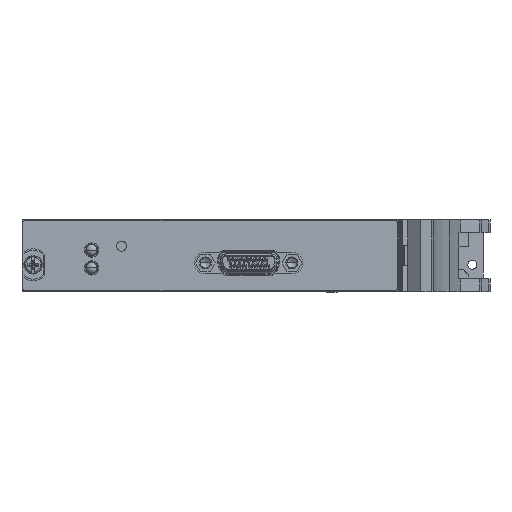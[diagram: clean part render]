
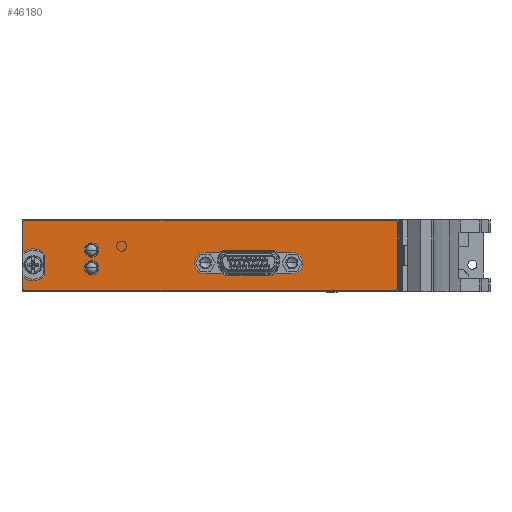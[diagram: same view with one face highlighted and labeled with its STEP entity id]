
A CAD part, left-side view. The second image highlights one B-rep face of the part: STEP entity #46180.
In plain terms, the highlighted planar face has unit normal (-1, 0, 0).
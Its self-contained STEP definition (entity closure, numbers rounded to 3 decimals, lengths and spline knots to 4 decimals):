
#2918=CARTESIAN_POINT('',(-0.215,0.5347,0.665));
#2919=DIRECTION('',(-1.,0.,0.));
#2920=DIRECTION('',(0.,0.,1.));
#2921=AXIS2_PLACEMENT_3D('',#2918,#2919,#2920);
#2923=DIRECTION('',(0.,1.,0.));
#2924=VECTOR('',#2923,4.07);
#2925=CARTESIAN_POINT('',(-0.215,-3.5354,0.685));
#2926=LINE('',#2925,#2924);
#2927=CARTESIAN_POINT('',(-0.215,-3.5354,0.665));
#2928=DIRECTION('',(-1.,0.,0.));
#2929=DIRECTION('',(0.,-1.,0.));
#2930=AXIS2_PLACEMENT_3D('',#2927,#2928,#2929);
#2932=DIRECTION('',(0.,0.,1.));
#2933=VECTOR('',#2932,0.728);
#2934=CARTESIAN_POINT('',(-0.215,-3.5554,-0.063));
#2935=LINE('',#2934,#2933);
#2936=CARTESIAN_POINT('',(-0.215,-3.5354,-0.063));
#2937=DIRECTION('',(-1.,0.,0.));
#2938=DIRECTION('',(0.,0.,-1.));
#2939=AXIS2_PLACEMENT_3D('',#2936,#2937,#2938);
#2941=DIRECTION('',(0.,-1.,0.));
#2942=VECTOR('',#2941,4.07);
#2943=CARTESIAN_POINT('',(-0.215,0.5347,-0.083));
#2944=LINE('',#2943,#2942);
#2945=CARTESIAN_POINT('',(-0.215,0.5347,-0.063));
#2946=DIRECTION('',(-1.,0.,0.));
#2947=DIRECTION('',(0.,1.,0.));
#2948=AXIS2_PLACEMENT_3D('',#2945,#2946,#2947);
#2950=DIRECTION('',(0.,0.,-1.));
#2951=VECTOR('',#2950,0.1295);
#2952=CARTESIAN_POINT('',(-0.215,0.5547,0.0665));
#2953=LINE('',#2952,#2951);
#2954=CARTESIAN_POINT('',(-0.215,0.4427,0.201));
#2955=DIRECTION('',(1.,0.,0.));
#2956=DIRECTION('',(0.,-0.737,-0.676));
#2957=AXIS2_PLACEMENT_3D('',#2954,#2955,#2956);
#2959=DIRECTION('',(0.,0.,-1.));
#2960=VECTOR('',#2959,0.2365);
#2961=CARTESIAN_POINT('',(-0.215,0.3137,0.3193));
#2962=LINE('',#2961,#2960);
#2963=CARTESIAN_POINT('',(-0.215,0.4427,0.201));
#2964=DIRECTION('',(1.,0.,0.));
#2965=DIRECTION('',(0.,0.64,0.768));
#2966=AXIS2_PLACEMENT_3D('',#2963,#2964,#2965);
#2968=DIRECTION('',(0.,0.,-1.));
#2969=VECTOR('',#2968,0.3295);
#2970=CARTESIAN_POINT('',(-0.215,0.5547,0.665));
#2971=LINE('',#2970,#2969);
#2972=CARTESIAN_POINT('',(-0.215,-0.1994,0.362));
#2973=DIRECTION('',(-1.,0.,0.));
#2974=DIRECTION('',(0.,0.,1.));
#2975=AXIS2_PLACEMENT_3D('',#2972,#2973,#2974);
#2977=CARTESIAN_POINT('',(-0.215,-0.1994,0.362));
#2978=DIRECTION('',(-1.,0.,0.));
#2979=DIRECTION('',(0.,0.,-1.));
#2980=AXIS2_PLACEMENT_3D('',#2977,#2978,#2979);
#2982=CARTESIAN_POINT('',(-0.215,-0.1994,0.167));
#2983=DIRECTION('',(-1.,0.,0.));
#2984=DIRECTION('',(0.,0.,1.));
#2985=AXIS2_PLACEMENT_3D('',#2982,#2983,#2984);
#2987=CARTESIAN_POINT('',(-0.215,-0.1994,0.167));
#2988=DIRECTION('',(-1.,0.,0.));
#2989=DIRECTION('',(0.,0.,-1.));
#2990=AXIS2_PLACEMENT_3D('',#2987,#2988,#2989);
#2992=CARTESIAN_POINT('',(-0.215,-1.6944,0.198));
#2993=DIRECTION('',(-1.,0.,0.));
#2994=DIRECTION('',(0.,0.548,-0.836));
#2995=AXIS2_PLACEMENT_3D('',#2992,#2993,#2994);
#2997=DIRECTION('',(0.,-1.,0.));
#2998=VECTOR('',#2997,0.458);
#2999=CARTESIAN_POINT('',(-0.215,-1.6944,0.082));
#3000=LINE('',#2999,#2998);
#3001=CARTESIAN_POINT('',(-0.215,-2.1524,0.198));
#3002=DIRECTION('',(-1.,0.,0.));
#3003=DIRECTION('',(0.,0.,-1.));
#3004=AXIS2_PLACEMENT_3D('',#3001,#3002,#3003);
#3006=DIRECTION('',(0.,-1.,0.));
#3007=VECTOR('',#3006,0.1824);
#3008=CARTESIAN_POINT('',(-0.215,-2.216,0.101));
#3009=LINE('',#3008,#3007);
#3010=DIRECTION('',(0.,1.,0.));
#3011=VECTOR('',#3010,0.1542);
#3012=CARTESIAN_POINT('',(-0.215,-2.3984,0.339));
#3013=LINE('',#3012,#3011);
#3014=CARTESIAN_POINT('',(-0.215,-2.1894,0.274));
#3015=DIRECTION('',(-1.,0.,0.));
#3016=DIRECTION('',(0.,-0.644,0.765));
#3017=AXIS2_PLACEMENT_3D('',#3014,#3015,#3016);
#3019=DIRECTION('',(0.,1.,0.));
#3020=VECTOR('',#3019,0.532);
#3021=CARTESIAN_POINT('',(-0.215,-2.1894,0.359));
#3022=LINE('',#3021,#3020);
#3023=CARTESIAN_POINT('',(-0.215,-1.6574,0.274));
#3024=DIRECTION('',(-1.,0.,0.));
#3025=DIRECTION('',(0.,0.,1.));
#3026=AXIS2_PLACEMENT_3D('',#3023,#3024,#3025);
#3028=DIRECTION('',(0.,1.,0.));
#3029=VECTOR('',#3028,0.1542);
#3030=CARTESIAN_POINT('',(-0.215,-1.6026,0.339));
#3031=LINE('',#3030,#3029);
#3032=DIRECTION('',(0.,-1.,0.));
#3033=VECTOR('',#3032,0.1824);
#3034=CARTESIAN_POINT('',(-0.215,-1.4484,0.101));
#3035=LINE('',#3034,#3033);
#3272=CARTESIAN_POINT('',(-0.215,-1.4484,0.22));
#3273=DIRECTION('',(1.,0.,0.));
#3274=DIRECTION('',(0.,0.,-1.));
#3275=AXIS2_PLACEMENT_3D('',#3272,#3273,#3274);
#3301=CARTESIAN_POINT('',(-0.215,-2.3984,0.22));
#3302=DIRECTION('',(1.,0.,0.));
#3303=DIRECTION('',(0.,0.,1.));
#3304=AXIS2_PLACEMENT_3D('',#3301,#3302,#3303);
#42642=CARTESIAN_POINT('',(-0.215,0.5347,0.685));
#42643=CARTESIAN_POINT('',(-0.215,0.5547,0.665));
#42644=VERTEX_POINT('',#42642);
#42645=VERTEX_POINT('',#42643);
#42646=CARTESIAN_POINT('',(-0.215,0.5547,0.3355));
#42647=VERTEX_POINT('',#42646);
#42648=CARTESIAN_POINT('',(-0.215,0.3137,0.3193));
#42649=VERTEX_POINT('',#42648);
#42650=CARTESIAN_POINT('',(-0.215,0.3137,0.0827));
#42651=VERTEX_POINT('',#42650);
#42652=CARTESIAN_POINT('',(-0.215,0.5547,0.0665));
#42653=VERTEX_POINT('',#42652);
#42654=CARTESIAN_POINT('',(-0.215,0.5547,-0.063));
#42655=VERTEX_POINT('',#42654);
#42656=CARTESIAN_POINT('',(-0.215,0.5347,-0.083));
#42657=VERTEX_POINT('',#42656);
#42658=CARTESIAN_POINT('',(-0.215,-3.5354,-0.083));
#42659=VERTEX_POINT('',#42658);
#42660=CARTESIAN_POINT('',(-0.215,-3.5554,-0.063));
#42661=VERTEX_POINT('',#42660);
#42662=CARTESIAN_POINT('',(-0.215,-3.5554,0.665));
#42663=VERTEX_POINT('',#42662);
#42664=CARTESIAN_POINT('',(-0.215,-3.5354,0.685));
#42665=VERTEX_POINT('',#42664);
#42666=CARTESIAN_POINT('',(-0.215,-0.1994,0.4405));
#42667=CARTESIAN_POINT('',(-0.215,-0.1994,0.2835));
#42668=VERTEX_POINT('',#42666);
#42669=VERTEX_POINT('',#42667);
#42670=CARTESIAN_POINT('',(-0.215,-0.1994,0.2455));
#42671=CARTESIAN_POINT('',(-0.215,-0.1994,0.0885));
#42672=VERTEX_POINT('',#42670);
#42673=VERTEX_POINT('',#42671);
#42674=CARTESIAN_POINT('',(-0.215,-1.6307,0.101));
#42675=CARTESIAN_POINT('',(-0.215,-1.6944,0.082));
#42676=VERTEX_POINT('',#42674);
#42677=VERTEX_POINT('',#42675);
#42678=CARTESIAN_POINT('',(-0.215,-2.1524,0.082));
#42679=VERTEX_POINT('',#42678);
#42680=CARTESIAN_POINT('',(-0.215,-2.216,0.101));
#42681=VERTEX_POINT('',#42680);
#42682=CARTESIAN_POINT('',(-0.215,-2.3984,0.101));
#42683=VERTEX_POINT('',#42682);
#42684=CARTESIAN_POINT('',(-0.215,-2.3984,0.339));
#42685=CARTESIAN_POINT('',(-0.215,-2.2441,0.339));
#42686=VERTEX_POINT('',#42684);
#42687=VERTEX_POINT('',#42685);
#42688=CARTESIAN_POINT('',(-0.215,-2.1894,0.359));
#42689=VERTEX_POINT('',#42688);
#42690=CARTESIAN_POINT('',(-0.215,-1.6574,0.359));
#42691=VERTEX_POINT('',#42690);
#42692=CARTESIAN_POINT('',(-0.215,-1.6026,0.339));
#42693=VERTEX_POINT('',#42692);
#42694=CARTESIAN_POINT('',(-0.215,-1.4484,0.101));
#42695=VERTEX_POINT('',#42694);
#42696=CARTESIAN_POINT('',(-0.215,-1.4484,0.339));
#42697=VERTEX_POINT('',#42696);
#46123=CARTESIAN_POINT('',(-0.215,0.4427,0.201));
#46124=DIRECTION('',(-1.,0.,0.));
#46125=DIRECTION('',(0.,0.,1.));
#46126=AXIS2_PLACEMENT_3D('',#46123,#46124,#46125);
#46127=PLANE('',#46126);
#46128=ORIENTED_EDGE('',*,*,#45963,.F.);
#46129=ORIENTED_EDGE('',*,*,#45978,.F.);
#46130=ORIENTED_EDGE('',*,*,#45992,.F.);
#46131=ORIENTED_EDGE('',*,*,#46006,.F.);
#46132=ORIENTED_EDGE('',*,*,#46020,.F.);
#46133=ORIENTED_EDGE('',*,*,#46034,.F.);
#46134=ORIENTED_EDGE('',*,*,#46048,.F.);
#46135=ORIENTED_EDGE('',*,*,#46062,.F.);
#46136=ORIENTED_EDGE('',*,*,#46076,.F.);
#46137=ORIENTED_EDGE('',*,*,#46090,.F.);
#46138=ORIENTED_EDGE('',*,*,#46104,.F.);
#46139=ORIENTED_EDGE('',*,*,#46117,.F.);
#46140=EDGE_LOOP('',(#46128,#46129,#46130,#46131,#46132,#46133,#46134,#46135,
#46136,#46137,#46138,#46139));
#46141=FACE_OUTER_BOUND('',#46140,.F.);
#46143=ORIENTED_EDGE('',*,*,#46142,.T.);
#46145=ORIENTED_EDGE('',*,*,#46144,.T.);
#46146=EDGE_LOOP('',(#46143,#46145));
#46147=FACE_BOUND('',#46146,.F.);
#46149=ORIENTED_EDGE('',*,*,#46148,.T.);
#46151=ORIENTED_EDGE('',*,*,#46150,.T.);
#46152=EDGE_LOOP('',(#46149,#46151));
#46153=FACE_BOUND('',#46152,.F.);
#46155=ORIENTED_EDGE('',*,*,#46154,.T.);
#46157=ORIENTED_EDGE('',*,*,#46156,.T.);
#46159=ORIENTED_EDGE('',*,*,#46158,.T.);
#46161=ORIENTED_EDGE('',*,*,#46160,.T.);
#46163=ORIENTED_EDGE('',*,*,#46162,.F.);
#46165=ORIENTED_EDGE('',*,*,#46164,.T.);
#46167=ORIENTED_EDGE('',*,*,#46166,.T.);
#46169=ORIENTED_EDGE('',*,*,#46168,.T.);
#46171=ORIENTED_EDGE('',*,*,#46170,.T.);
#46173=ORIENTED_EDGE('',*,*,#46172,.T.);
#46175=ORIENTED_EDGE('',*,*,#46174,.F.);
#46177=ORIENTED_EDGE('',*,*,#46176,.T.);
#46178=EDGE_LOOP('',(#46155,#46157,#46159,#46161,#46163,#46165,#46167,#46169,
#46171,#46173,#46175,#46177));
#46179=FACE_BOUND('',#46178,.F.);
#46180=ADVANCED_FACE('',(#46141,#46147,#46153,#46179),#46127,.T.);
#2922=CIRCLE('',#2921,0.02);
#2931=CIRCLE('',#2930,0.02);
#2940=CIRCLE('',#2939,0.02);
#2949=CIRCLE('',#2948,0.02);
#2958=CIRCLE('',#2957,0.175);
#2967=CIRCLE('',#2966,0.175);
#2976=CIRCLE('',#2975,0.0785);
#2981=CIRCLE('',#2980,0.0785);
#2986=CIRCLE('',#2985,0.0785);
#2991=CIRCLE('',#2990,0.0785);
#2996=CIRCLE('',#2995,0.116);
#3005=CIRCLE('',#3004,0.116);
#3018=CIRCLE('',#3017,0.085);
#3027=CIRCLE('',#3026,0.085);
#3276=CIRCLE('',#3275,0.119);
#3305=CIRCLE('',#3304,0.119);
#45963=EDGE_CURVE('',#42644,#42645,#2922,.T.);
#45978=EDGE_CURVE('',#42665,#42644,#2926,.T.);
#45992=EDGE_CURVE('',#42663,#42665,#2931,.T.);
#46006=EDGE_CURVE('',#42661,#42663,#2935,.T.);
#46020=EDGE_CURVE('',#42659,#42661,#2940,.T.);
#46034=EDGE_CURVE('',#42657,#42659,#2944,.T.);
#46048=EDGE_CURVE('',#42655,#42657,#2949,.T.);
#46062=EDGE_CURVE('',#42653,#42655,#2953,.T.);
#46076=EDGE_CURVE('',#42651,#42653,#2958,.T.);
#46090=EDGE_CURVE('',#42649,#42651,#2962,.T.);
#46104=EDGE_CURVE('',#42647,#42649,#2967,.T.);
#46117=EDGE_CURVE('',#42645,#42647,#2971,.T.);
#46142=EDGE_CURVE('',#42668,#42669,#2976,.T.);
#46144=EDGE_CURVE('',#42669,#42668,#2981,.T.);
#46148=EDGE_CURVE('',#42672,#42673,#2986,.T.);
#46150=EDGE_CURVE('',#42673,#42672,#2991,.T.);
#46154=EDGE_CURVE('',#42676,#42677,#2996,.T.);
#46156=EDGE_CURVE('',#42677,#42679,#3000,.T.);
#46158=EDGE_CURVE('',#42679,#42681,#3005,.T.);
#46160=EDGE_CURVE('',#42681,#42683,#3009,.T.);
#46162=EDGE_CURVE('',#42686,#42683,#3305,.T.);
#46164=EDGE_CURVE('',#42686,#42687,#3013,.T.);
#46166=EDGE_CURVE('',#42687,#42689,#3018,.T.);
#46168=EDGE_CURVE('',#42689,#42691,#3022,.T.);
#46170=EDGE_CURVE('',#42691,#42693,#3027,.T.);
#46172=EDGE_CURVE('',#42693,#42697,#3031,.T.);
#46174=EDGE_CURVE('',#42695,#42697,#3276,.T.);
#46176=EDGE_CURVE('',#42695,#42676,#3035,.T.);
